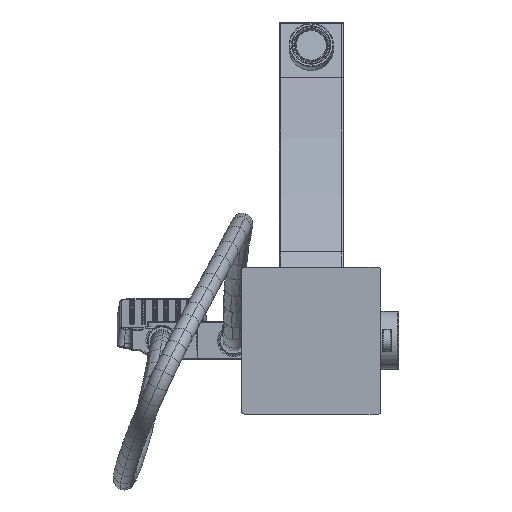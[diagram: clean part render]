
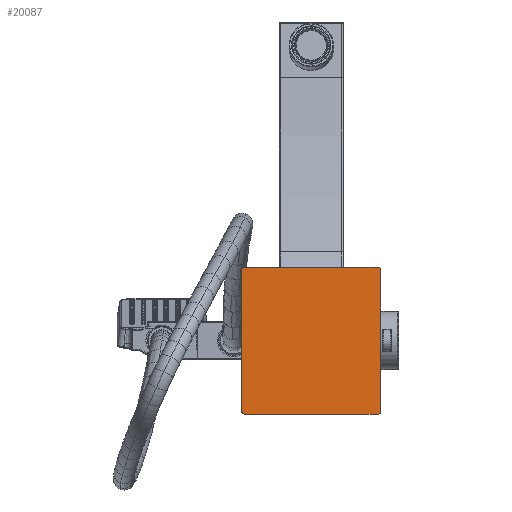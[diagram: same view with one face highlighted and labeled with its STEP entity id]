
A CAD part, front view. The second image highlights one B-rep face of the part: STEP entity #20087.
In plain terms, the highlighted planar face has unit normal (0, -1, 0).
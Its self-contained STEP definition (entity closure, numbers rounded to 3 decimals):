
#1661=CIRCLE('',#22388,2.);
#1662=CIRCLE('',#22389,2.);
#1663=CIRCLE('',#22390,2.);
#1664=CIRCLE('',#22391,2.);
#3763=FACE_OUTER_BOUND('',#5206,.T.);
#5206=EDGE_LOOP('',(#17036,#17037,#17038,#17039,#17040,#17041,#17042,#17043));
#6641=LINE('',#40745,#7940);
#6642=LINE('',#40749,#7941);
#6643=LINE('',#40753,#7942);
#6644=LINE('',#40756,#7943);
#7940=VECTOR('',#28210,102.);
#7941=VECTOR('',#28213,96.);
#7942=VECTOR('',#28216,102.);
#7943=VECTOR('',#28219,96.);
#9348=VERTEX_POINT('',#40741);
#9349=VERTEX_POINT('',#40742);
#9350=VERTEX_POINT('',#40744);
#9351=VERTEX_POINT('',#40746);
#9352=VERTEX_POINT('',#40748);
#9353=VERTEX_POINT('',#40750);
#9354=VERTEX_POINT('',#40752);
#9355=VERTEX_POINT('',#40754);
#11990=EDGE_CURVE('',#9348,#9349,#1661,.T.);
#11991=EDGE_CURVE('',#9350,#9348,#6641,.T.);
#11992=EDGE_CURVE('',#9351,#9350,#1662,.T.);
#11993=EDGE_CURVE('',#9352,#9351,#6642,.T.);
#11994=EDGE_CURVE('',#9353,#9352,#1663,.T.);
#11995=EDGE_CURVE('',#9353,#9354,#6643,.T.);
#11996=EDGE_CURVE('',#9355,#9354,#1664,.T.);
#11997=EDGE_CURVE('',#9355,#9349,#6644,.T.);
#17036=ORIENTED_EDGE('',*,*,#11990,.F.);
#17037=ORIENTED_EDGE('',*,*,#11991,.F.);
#17038=ORIENTED_EDGE('',*,*,#11992,.F.);
#17039=ORIENTED_EDGE('',*,*,#11993,.F.);
#17040=ORIENTED_EDGE('',*,*,#11994,.F.);
#17041=ORIENTED_EDGE('',*,*,#11995,.T.);
#17042=ORIENTED_EDGE('',*,*,#11996,.F.);
#17043=ORIENTED_EDGE('',*,*,#11997,.T.);
#19007=PLANE('',#22387);
#20087=ADVANCED_FACE('',(#3763),#19007,.F.);
#22387=AXIS2_PLACEMENT_3D('',#40740,#28206,#28207);
#22388=AXIS2_PLACEMENT_3D('',#40743,#28208,#28209);
#22389=AXIS2_PLACEMENT_3D('',#40747,#28211,#28212);
#22390=AXIS2_PLACEMENT_3D('',#40751,#28214,#28215);
#22391=AXIS2_PLACEMENT_3D('',#40755,#28217,#28218);
#28206=DIRECTION('center_axis',(0.,1.,0.));
#28207=DIRECTION('ref_axis',(-1.,0.,0.));
#28208=DIRECTION('center_axis',(0.,1.,0.));
#28209=DIRECTION('ref_axis',(-1.,0.,0.));
#28210=DIRECTION('',(0.,0.,1.));
#28211=DIRECTION('center_axis',(0.,1.,0.));
#28212=DIRECTION('ref_axis',(0.,0.,
-1.));
#28213=DIRECTION('',(-1.,0.,0.));
#28214=DIRECTION('center_axis',(0.,1.,0.));
#28215=DIRECTION('ref_axis',(1.,0.,0.));
#28216=DIRECTION('',(0.,0.,1.));
#28217=DIRECTION('center_axis',(0.,1.,0.));
#28218=DIRECTION('ref_axis',(0.,0.,
1.));
#28219=DIRECTION('',(-1.,0.,0.));
#40740=CARTESIAN_POINT('Origin',(-705.528,-448.204,1012.286));
#40741=CARTESIAN_POINT('',(-755.528,-448.204,1063.286));
#40742=CARTESIAN_POINT('',(-753.528,-448.204,1065.286));
#40743=CARTESIAN_POINT('Origin',(-753.528,-448.204,1063.286));
#40744=CARTESIAN_POINT('',(-755.528,-448.204,961.286));
#40745=CARTESIAN_POINT('',(-755.528,-448.204,961.286));
#40746=CARTESIAN_POINT('',(-753.528,-448.204,959.286));
#40747=CARTESIAN_POINT('Origin',(-753.528,-448.204,961.286));
#40748=CARTESIAN_POINT('',(-657.528,-448.204,959.286));
#40749=CARTESIAN_POINT('',(-657.528,-448.204,959.286));
#40750=CARTESIAN_POINT('',(-655.528,-448.204,961.286));
#40751=CARTESIAN_POINT('Origin',(-657.528,-448.204,961.286));
#40752=CARTESIAN_POINT('',(-655.528,-448.204,1063.286));
#40753=CARTESIAN_POINT('',(-655.528,-448.204,961.286));
#40754=CARTESIAN_POINT('',(-657.528,-448.204,1065.286));
#40755=CARTESIAN_POINT('Origin',(-657.528,-448.204,1063.286));
#40756=CARTESIAN_POINT('',(-657.528,-448.204,1065.286));
